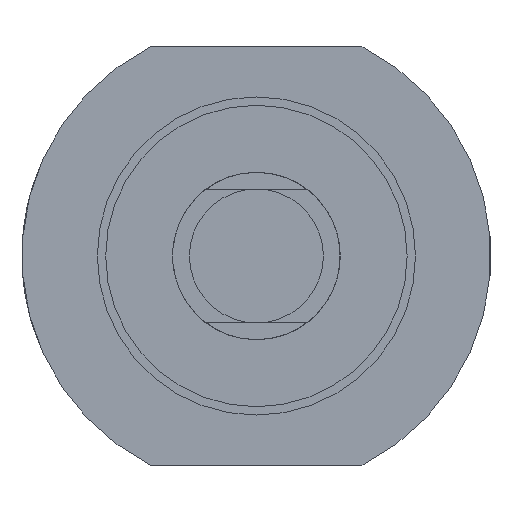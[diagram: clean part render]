
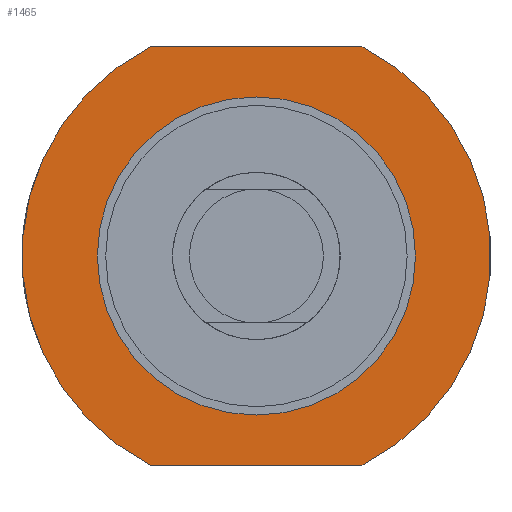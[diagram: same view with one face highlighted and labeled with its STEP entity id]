
A CAD part, left-side view. The second image highlights one B-rep face of the part: STEP entity #1465.
In plain terms, the highlighted planar face has unit normal (-1, 0, 0).
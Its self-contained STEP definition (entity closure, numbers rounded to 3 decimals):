
#37 = CARTESIAN_POINT ( 'NONE',  ( 34., 6.305, 12.5 ) ) ;
#38 = FACE_BOUND ( 'NONE', #1460, .T. ) ;
#144 = AXIS2_PLACEMENT_3D ( 'NONE', #1636, #418, #1275 ) ;
#189 = VERTEX_POINT ( 'NONE', #1365 ) ;
#201 = CIRCLE ( 'NONE', #910, 14. ) ;
#212 = DIRECTION ( 'NONE',  ( 1., 0., 0. ) ) ;
#237 = EDGE_CURVE ( 'NONE', #1696, #1076, #1519, .T. ) ;
#260 = AXIS2_PLACEMENT_3D ( 'NONE', #1255, #798, #1610 ) ;
#283 = VERTEX_POINT ( 'NONE', #537 ) ;
#356 = VECTOR ( 'NONE', #879, 1000. ) ;
#394 = CIRCLE ( 'NONE', #260, 9.5 ) ;
#399 = DIRECTION ( 'NONE',  ( -1., 0., 0. ) ) ;
#402 = DIRECTION ( 'NONE',  ( 0., 0., -1. ) ) ;
#414 = EDGE_CURVE ( 'NONE', #1696, #1029, #1652, .T. ) ;
#418 = DIRECTION ( 'NONE',  ( -1., 0., 0. ) ) ;
#505 = ORIENTED_EDGE ( 'NONE', *, *, #414, .F. ) ;
#521 = CARTESIAN_POINT ( 'NONE',  ( 34., 6.305, -12.5 ) ) ;
#537 = CARTESIAN_POINT ( 'NONE',  ( 34., 0., 9.5 ) ) ;
#635 = DIRECTION ( 'NONE',  ( -1., 0., 0. ) ) ;
#637 = CARTESIAN_POINT ( 'NONE',  ( 34., 0., -14. ) ) ;
#661 = DIRECTION ( 'NONE',  ( 0., 0., 1. ) ) ;
#676 = ORIENTED_EDGE ( 'NONE', *, *, #237, .T. ) ;
#709 = EDGE_CURVE ( 'NONE', #189, #1029, #201, .T. ) ;
#744 = PLANE ( 'NONE',  #1107 ) ;
#798 = DIRECTION ( 'NONE',  ( -1., 0., 0. ) ) ;
#843 = ORIENTED_EDGE ( 'NONE', *, *, #1263, .F. ) ;
#879 = DIRECTION ( 'NONE',  ( 0., -1., 0. ) ) ;
#910 = AXIS2_PLACEMENT_3D ( 'NONE', #1287, #399, #661 ) ;
#914 = ORIENTED_EDGE ( 'NONE', *, *, #709, .T. ) ;
#916 = EDGE_LOOP ( 'NONE', ( #676, #1726, #914, #505 ) ) ;
#939 = CARTESIAN_POINT ( 'NONE',  ( 34., 11.874, -12.5 ) ) ;
#964 = CARTESIAN_POINT ( 'NONE',  ( 34., 0., -9.5 ) ) ;
#966 = ORIENTED_EDGE ( 'NONE', *, *, #1622, .F. ) ;
#981 = DIRECTION ( 'NONE',  ( 0., 0., 1. ) ) ;
#985 = CARTESIAN_POINT ( 'NONE',  ( 34., 11.874, 12.5 ) ) ;
#1029 = VERTEX_POINT ( 'NONE', #1396 ) ;
#1076 = VERTEX_POINT ( 'NONE', #521 ) ;
#1081 = VECTOR ( 'NONE', #1661, 1000. ) ;
#1104 = EDGE_CURVE ( 'NONE', #189, #1076, #1139, .T. ) ;
#1107 = AXIS2_PLACEMENT_3D ( 'NONE', #637, #212, #402 ) ;
#1139 = LINE ( 'NONE', #939, #1081 ) ;
#1251 = CIRCLE ( 'NONE', #144, 9.5 ) ;
#1255 = CARTESIAN_POINT ( 'NONE',  ( 34., 0., 0. ) ) ;
#1263 = EDGE_CURVE ( 'NONE', #1518, #283, #1251, .T. ) ;
#1275 = DIRECTION ( 'NONE',  ( 0., 0., 1. ) ) ;
#1287 = CARTESIAN_POINT ( 'NONE',  ( 34., 0., 0. ) ) ;
#1365 = CARTESIAN_POINT ( 'NONE',  ( 34., -6.305, -12.5 ) ) ;
#1396 = CARTESIAN_POINT ( 'NONE',  ( 34., -6.305, 12.5 ) ) ;
#1460 = EDGE_LOOP ( 'NONE', ( #966, #843 ) ) ;
#1465 = ADVANCED_FACE ( 'NONE', ( #38, #1588 ), #744, .F. ) ;
#1518 = VERTEX_POINT ( 'NONE', #964 ) ;
#1519 = CIRCLE ( 'NONE', #1539, 14. ) ;
#1539 = AXIS2_PLACEMENT_3D ( 'NONE', #1682, #635, #981 ) ;
#1588 = FACE_OUTER_BOUND ( 'NONE', #916, .T. ) ;
#1610 = DIRECTION ( 'NONE',  ( 0., 0., 1. ) ) ;
#1622 = EDGE_CURVE ( 'NONE', #283, #1518, #394, .T. ) ;
#1636 = CARTESIAN_POINT ( 'NONE',  ( 34., 0., 0. ) ) ;
#1652 = LINE ( 'NONE', #985, #356 ) ;
#1661 = DIRECTION ( 'NONE',  ( 0., 1., 0. ) ) ;
#1682 = CARTESIAN_POINT ( 'NONE',  ( 34., 0., 0. ) ) ;
#1696 = VERTEX_POINT ( 'NONE', #37 ) ;
#1726 = ORIENTED_EDGE ( 'NONE', *, *, #1104, .F. ) ;
